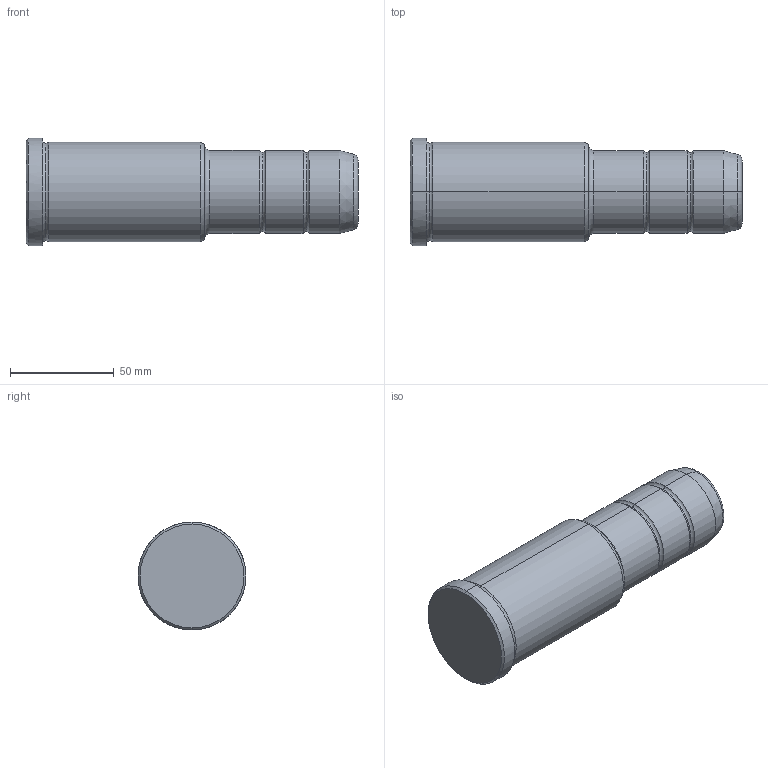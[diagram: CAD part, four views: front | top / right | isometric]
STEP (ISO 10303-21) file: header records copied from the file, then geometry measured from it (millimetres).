
FILE_DESCRIPTION(('CATIA V5 STEP Exchange'),'2;1');
FILE_NAME('C:\Users\Utente\Desktop\IO LAVORO\3D X SITO CF\X SITO\PLASTICA\351\351-40X86X160.stp','2021-10-07T14:18:45+00:00',('none'),('none'),'CATIA Version 5 Release 20 GA (IN-10)','CATIA V5 STEP AP203','none');
FILE_SCHEMA(('CONFIG_CONTROL_DESIGN'));
Length unit declared in the file: millimetre
Products named in the file (1): 351-40X86X160
Bounding box: 160 x 52 x 52 mm (x, y, z)
Volume: 248942.5 mm3; surface area: 26063.5 mm2
Topology: 1 solids, 1 shells, 36 faces, 102 edges, 70 vertices
Faces by surface type: torus 16, cylinder 10, cone 6, plane 4
Entity records: 1292 total; most frequent: CARTESIAN_POINT 321, ORIENTED_EDGE 204, DIRECTION 166, AXIS2_PLACEMENT_3D 115, EDGE_CURVE 102, CIRCLE 78, VERTEX_POINT 70, EDGE_LOOP 38
